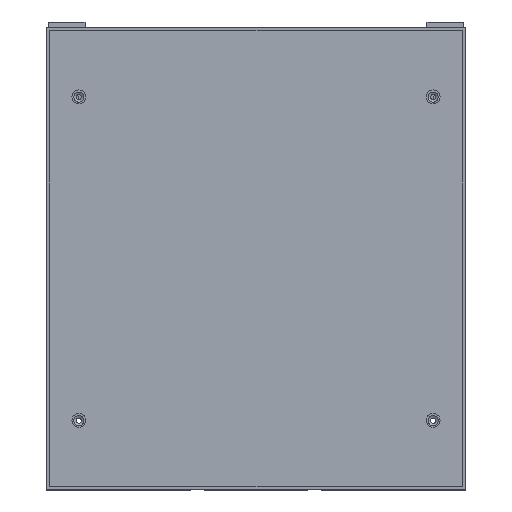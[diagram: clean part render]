
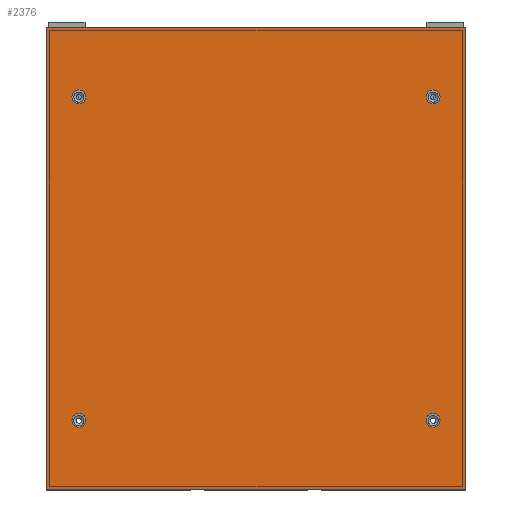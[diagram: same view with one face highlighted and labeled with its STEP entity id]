
A CAD part, top view. The second image highlights one B-rep face of the part: STEP entity #2376.
In plain terms, the highlighted planar face has unit normal (0, 0, 1).
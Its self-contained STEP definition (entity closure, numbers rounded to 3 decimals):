
#296=FACE_BOUND('',#4403,.T.);
#297=FACE_BOUND('',#4404,.T.);
#298=FACE_BOUND('',#4405,.T.);
#299=FACE_BOUND('',#4406,.T.);
#300=FACE_BOUND('',#4407,.T.);
#958=PLANE('',#16541);
#1548=CIRCLE('',#16537,2.25);
#1549=CIRCLE('',#16538,2.25);
#1550=CIRCLE('',#16539,2.25);
#1551=CIRCLE('',#16540,2.25);
#2376=ADVANCED_FACE('',(#296,#297,#298,#299,#300),#958,.F.);
#4403=EDGE_LOOP('',(#6699));
#4404=EDGE_LOOP('',(#6700));
#4405=EDGE_LOOP('',(#6701));
#4406=EDGE_LOOP('',(#6702));
#4407=EDGE_LOOP('',(#6703,#6704,#6705,#6706));
#6699=ORIENTED_EDGE('',*,*,#12314,.F.);
#6700=ORIENTED_EDGE('',*,*,#12315,.F.);
#6701=ORIENTED_EDGE('',*,*,#12316,.F.);
#6702=ORIENTED_EDGE('',*,*,#12317,.F.);
#6703=ORIENTED_EDGE('',*,*,#12001,.F.);
#6704=ORIENTED_EDGE('',*,*,#12318,.F.);
#6705=ORIENTED_EDGE('',*,*,#11908,.F.);
#6706=ORIENTED_EDGE('',*,*,#12319,.F.);
#10290=VERTEX_POINT('',#24071);
#10291=VERTEX_POINT('',#24073);
#10354=VERTEX_POINT('',#24247);
#10355=VERTEX_POINT('',#24249);
#10553=VERTEX_POINT('',#24883);
#10554=VERTEX_POINT('',#24885);
#10555=VERTEX_POINT('',#24887);
#10556=VERTEX_POINT('',#24889);
#11908=EDGE_CURVE('',#10290,#10291,#13921,.T.);
#12001=EDGE_CURVE('',#10354,#10355,#13996,.T.);
#12314=EDGE_CURVE('',#10553,#10553,#1548,.T.);
#12315=EDGE_CURVE('',#10554,#10554,#1549,.T.);
#12316=EDGE_CURVE('',#10555,#10555,#1550,.T.);
#12317=EDGE_CURVE('',#10556,#10556,#1551,.T.);
#12318=EDGE_CURVE('',#10291,#10354,#14186,.T.);
#12319=EDGE_CURVE('',#10355,#10290,#14187,.T.);
#13921=LINE('',#24072,#15081);
#13996=LINE('',#24248,#15156);
#14186=LINE('',#24890,#15346);
#14187=LINE('',#24891,#15347);
#15081=VECTOR('',#18444,1.);
#15156=VECTOR('',#18593,1.);
#15346=VECTOR('',#19283,1.);
#15347=VECTOR('',#19284,1.);
#16537=AXIS2_PLACEMENT_3D('',#24882,#19275,#19276);
#16538=AXIS2_PLACEMENT_3D('',#24884,#19277,#19278);
#16539=AXIS2_PLACEMENT_3D('',#24886,#19279,#19280);
#16540=AXIS2_PLACEMENT_3D('',#24888,#19281,#19282);
#16541=AXIS2_PLACEMENT_3D('',#24892,#19285,#19286);
#18444=DIRECTION('',(0.,1.,0.));
#18593=DIRECTION('',(0.,-1.,0.));
#19275=DIRECTION('',(0.,0.,1.));
#19276=DIRECTION('',(-1.,0.,0.));
#19277=DIRECTION('',(0.,0.,1.));
#19278=DIRECTION('',(1.,0.,0.));
#19279=DIRECTION('',(0.,0.,1.));
#19280=DIRECTION('',(-1.,0.,0.));
#19281=DIRECTION('',(0.,0.,1.));
#19282=DIRECTION('',(1.,0.,0.));
#19283=DIRECTION('',(1.,0.,0.));
#19284=DIRECTION('',(-1.,0.,0.));
#19285=DIRECTION('',(0.,0.,-1.));
#19286=DIRECTION('',(1.,0.,0.));
#24071=CARTESIAN_POINT('',(-68.,-78.,193.));
#24072=CARTESIAN_POINT('',(-68.,72.,193.));
#24073=CARTESIAN_POINT('',(-68.,72.,193.));
#24247=CARTESIAN_POINT('',(68.,72.,193.));
#24248=CARTESIAN_POINT('',(68.,72.,193.));
#24249=CARTESIAN_POINT('',(68.,-78.,193.));
#24882=CARTESIAN_POINT('',(-57.5,-55.5,193.));
#24883=CARTESIAN_POINT('',(-59.75,-55.5,193.));
#24884=CARTESIAN_POINT('',(57.5,-55.5,193.));
#24885=CARTESIAN_POINT('',(59.75,-55.5,193.));
#24886=CARTESIAN_POINT('',(57.5,49.5,193.));
#24887=CARTESIAN_POINT('',(55.25,49.5,193.));
#24888=CARTESIAN_POINT('',(-57.5,49.5,193.));
#24889=CARTESIAN_POINT('',(-55.25,49.5,193.));
#24890=CARTESIAN_POINT('',(68.,72.,193.));
#24891=CARTESIAN_POINT('',(68.,-78.,193.));
#24892=CARTESIAN_POINT('',(0.,-3.,193.));
